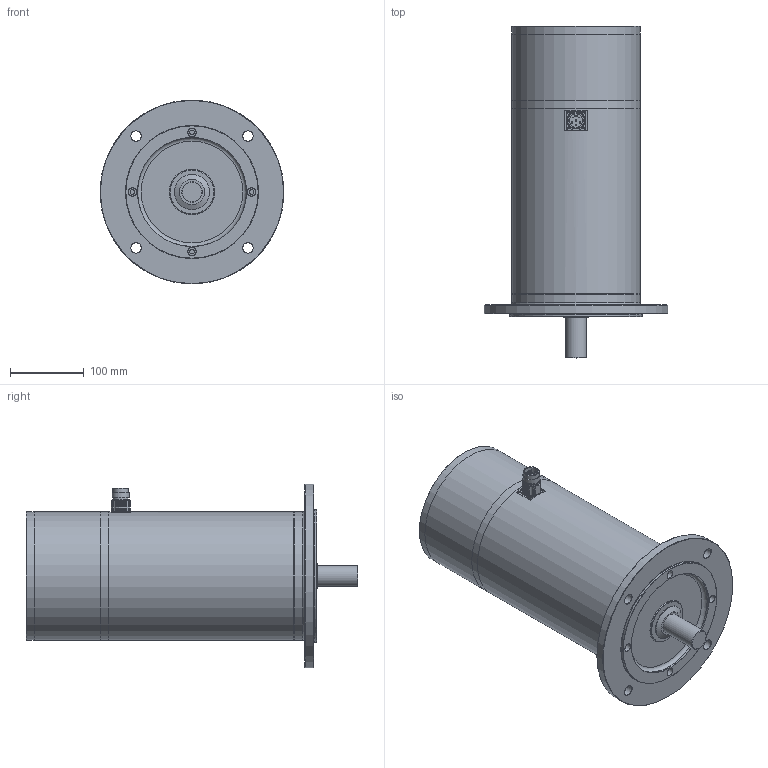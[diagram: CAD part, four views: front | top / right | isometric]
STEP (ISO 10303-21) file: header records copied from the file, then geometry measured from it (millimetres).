
FILE_DESCRIPTION(/* description */ (''),/* implementation_level */ '2;1');
FILE_NAME(/* name */ 'ksa_8x12e_mc',/* time_stamp */ '2007-03-14T10:10:19+01:00',/* author */ (''),/* organization */ (''),/* preprocessor_version */ 'ST-DEVELOPER v8',/* originating_system */ 'UNIGRAPHICS SOLUTIONS - UNIGRAPHICS 18.0',/* authorisation */ '');
FILE_SCHEMA (('AUTOMOTIVE_DESIGN { 1 2 10303 214 0 1 1 1 }'));
Length unit declared in the file: millimetre
Products named in the file (10): 064305_0; 089285_0; 118030_0; 014260_0; 06331401_0; DIN3760_org_A30x42x7_0; Rotor_SA 84.. E_0; Gehaeuse SA 84.. E_0; 118025_0; KSA8412_E-MC_0
Assembly tree (9 placements, depth 2):
  KSA8412_E-MC_0
    118025_0
    Gehaeuse SA 84.. E_0
    Rotor_SA 84.. E_0
    DIN3760_org_A30x42x7_0
    06331401_0
    014260_0
    118030_0
    089285_0
    064305_0
Bounding box: 250 x 451 x 250 mm (x, y, z)
Volume: 3388434.9 mm3; surface area: 641706.1 mm2
Topology: 9 solids, 9 shells, 233 faces, 554 edges, 354 vertices
Faces by surface type: cylinder 115, plane 59, cone 33, torus 18, sphere 8
Full cylindrical faces by diameter (mm): 1 x4, 2 x4, 2.7 x4, 6.4 x4, 11 x4, 14 x4, 18 x1, 20 x2, 21 x1, 21.5 x1, 23 x2, 27.52 x1, 27.9 x1, 28 x1, 30 x2, 30.3 x1, 38 x1, 39 x1, 42 x2, 48 x1, 56 x1, 60 x1, 62 x1, 140 x1, 148 x1, 150 x1, 151 x2, 174 x5, 180 x1, 250 x1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
Entity records: 6160 total; most frequent: DIRECTION 1160, CARTESIAN_POINT 966, ORIENTED_EDGE 764, AXIS2_PLACEMENT_3D 536, EDGE_LOOP 410, EDGE_CURVE 382, VERTEX_POINT 308, CIRCLE 293
